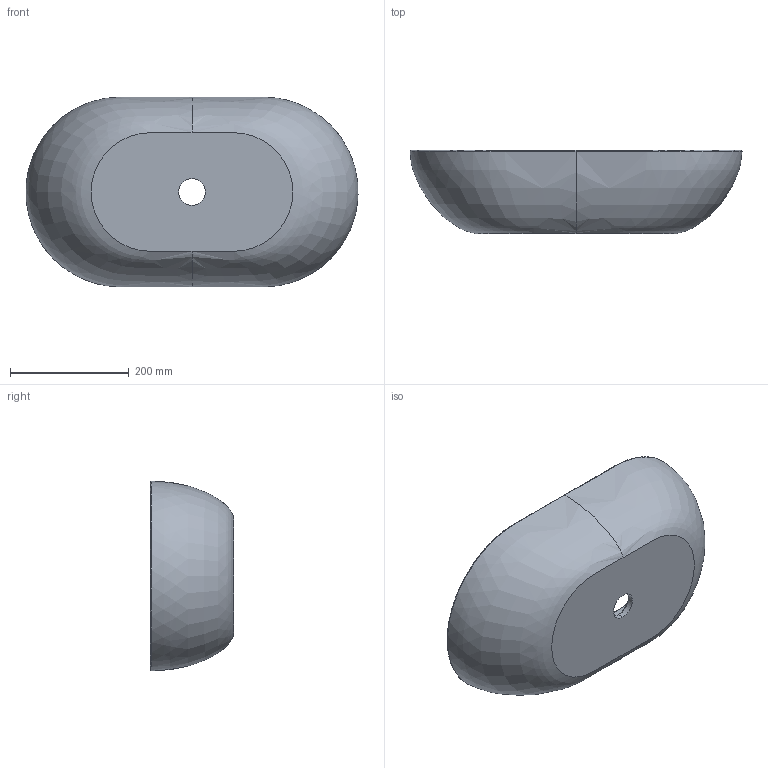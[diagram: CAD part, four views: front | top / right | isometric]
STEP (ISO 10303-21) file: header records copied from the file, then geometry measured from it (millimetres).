
FILE_DESCRIPTION (( 'STEP AP203' ), '1' );
FILE_NAME ('C9.STEP', '2015-09-25T03:48:50', ( '旮僅薊襠http://www.deepbbs.org' ), ( 'http://www.deepbbs.org' ), 'SwSTEP 2.0', 'SolidWorks 2014', '' );
FILE_SCHEMA (( 'CONFIG_CONTROL_DESIGN' ));
Length unit declared in the file: millimetre
Products named in the file (1): C9
Bounding box: 559.63 x 140 x 320.07 mm (x, y, z)
Volume: 4500090.5 mm3; surface area: 540588.3 mm2
Topology: 1 solids, 1 shells, 24 faces, 72 edges, 50 vertices
Faces by surface type: bspline 18, cone 2, cylinder 2, plane 2
Entity records: 5815 total; most frequent: CARTESIAN_POINT 5205, ORIENTED_EDGE 144, EDGE_CURVE 72, DIRECTION 66, VERTEX_POINT 50, B_SPLINE_CURVE_WITH_KNOTS 42, AXIS2_PLACEMENT_3D 29, EDGE_LOOP 26
